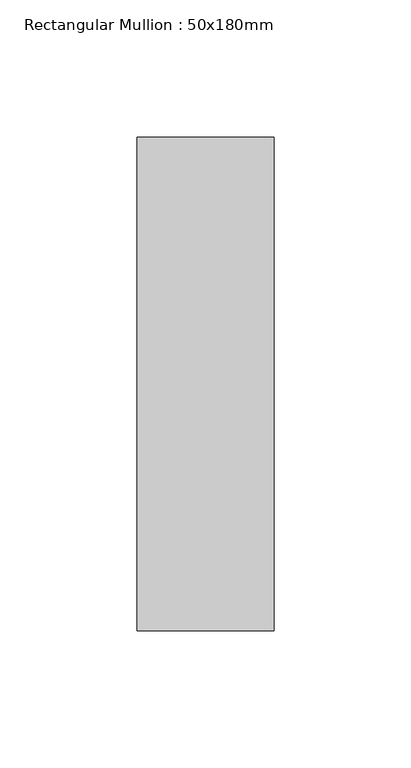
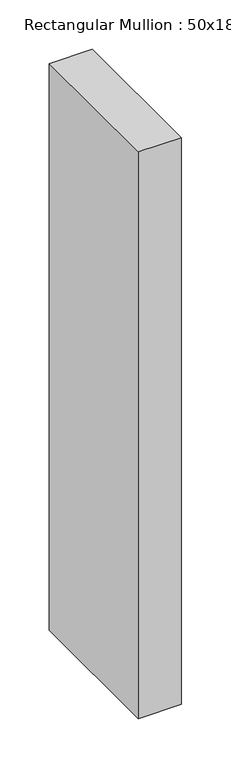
"""IFC4 building model written with IfcOpenShell, lengths in millimetres: member geometry, Rectangular Mullion : 50x180mm."""

from ifc_helpers import new_model, si_unit, frame, origin, place, context, project, spatial, polyline, outline, extrude, source, transform, mapped, element, save


def rectangular_mullion_50x180mm_cfc9efda(model_context):
    return source(origin(), model_context, "Body", "SweptSolid", [
        extrude(outline(polyline([(25.0, 90.0), (25.0, -90.0), (-25.0, -90.0), (-25.0, 90.0), (25.0, 90.0)])), frame((0.0, 0.0, -700.0), z_axis=(0.0, 0.0, 1.0), x_axis=(1.0, 0.0, 0.0)), (0.0, 0.0, 1.0), 700.0),
    ])


if __name__ == "__main__":
    model = new_model("IFC4")
    model_context = context("Model", 3, world=origin())
    ifc_project = project(units=[si_unit("LENGTHUNIT", "METRE", prefix="MILLI")], contexts=[model_context])
    site = spatial("IfcSite", under=ifc_project)
    building = spatial("IfcBuilding", under=site)
    placement = place(None, origin())
    rectangular_mullion_50x180mm_shape = rectangular_mullion_50x180mm_cfc9efda(model_context)
    element("IfcMember", 1, ObjectType="Rectangular Mullion : 50x180mm", at=placement, inside=building, context=model_context, shape_type="MappedRepresentation", body=[
        mapped(rectangular_mullion_50x180mm_shape, transform((0.0, 0.0, 0.0), x_axis=(1.0, 0.0, 0.0), y_axis=(0.0, 1.0, 0.0), z_axis=(0.0, 0.0, 1.0))),
    ])
    save(model, "model.ifc")
